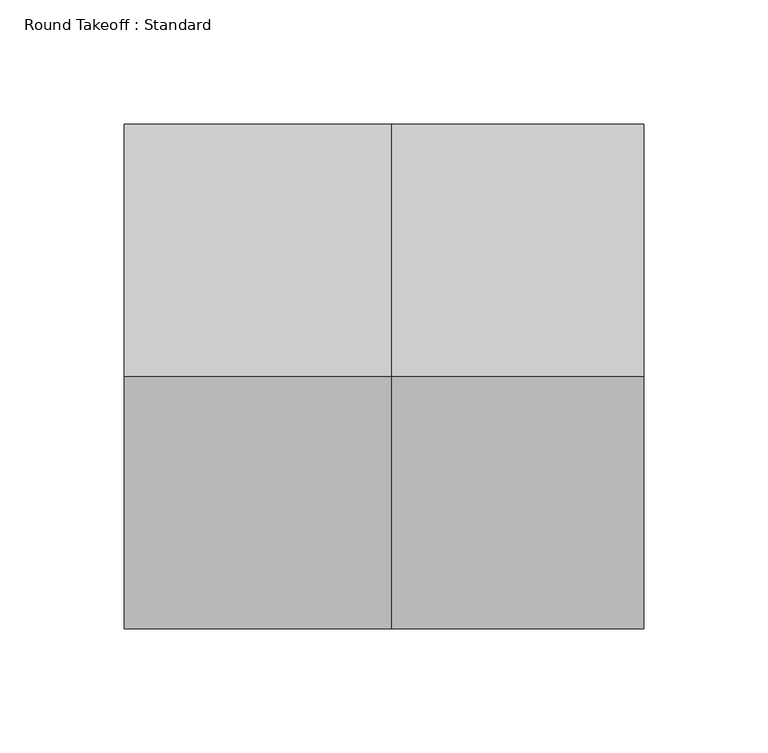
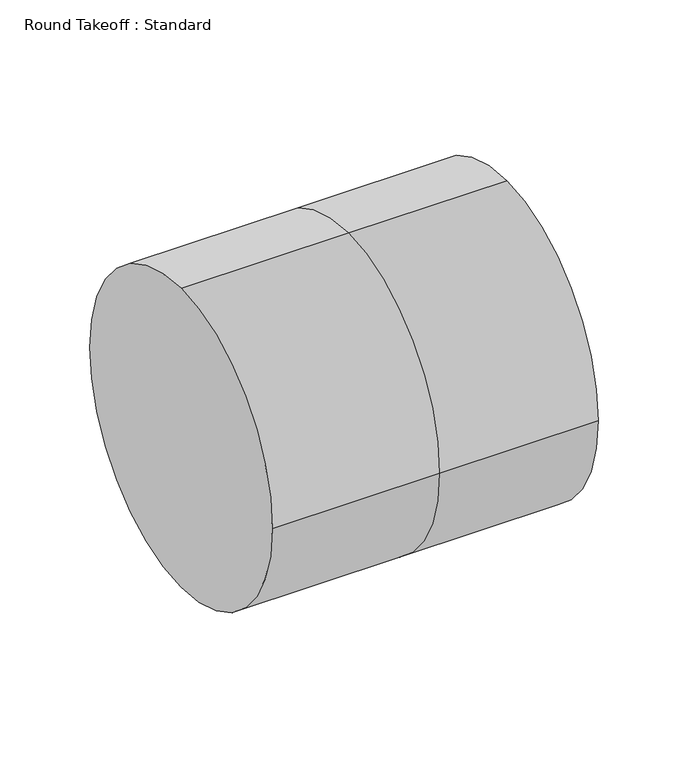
"""IFC4 building model written with IfcOpenShell, lengths in millimetres: duct fitting geometry, Round Takeoff : Standard."""

from ifc_helpers import new_model, si_unit, frame, origin, place, context, project, spatial, circle_curve, source, transform, mapped, element, save
from ifc_brep_helpers import plane_surface, cylinder_surface, advanced_brep


def round_takeoff_standard_53c2403a(model_context):
    return source(origin(), model_context, "Body", "AdvancedBrep", [
        advanced_brep(
        [(101.6, 0.0, 101.6), (101.6, -101.6, 0.0), (101.6, 0.0, -101.6), (101.6, 101.6, 0.0), (0.0, 101.6, 0.0), (0.0, 0.0, 101.6), (0.0, 0.0, -101.6), (0.0, -101.6, 0.0), (-107.696, 0.0, 101.6), (-107.696, 101.6, 0.0), (-107.696, 0.0, -101.6), (-107.696, -101.6, 0.0)],
        [
            (0, 1, circle_curve(frame((101.6, 0.0, 0.0), z_axis=(1.0, 0.0, 0.0), x_axis=(0.0, 1.0, 0.0)), 101.6)),
            (1, 2, circle_curve(frame((101.6, 0.0, 0.0), z_axis=(1.0, 0.0, 0.0), x_axis=(0.0, 1.0, 0.0)), 101.6)),
            (2, 3, circle_curve(frame((101.6, 0.0, 0.0), z_axis=(1.0, 0.0, 0.0), x_axis=(0.0, 1.0, 0.0)), 101.6)),
            (3, 0, circle_curve(frame((101.6, 0.0, 0.0), z_axis=(1.0, 0.0, 0.0), x_axis=(0.0, 1.0, 0.0)), 101.6)),
            (3, 4),
            (4, 5, circle_curve(frame((0.0, 0.0, 0.0), z_axis=(1.0, 0.0, 0.0), x_axis=(0.0, 1.0, 0.0)), 101.6)),
            (5, 0),
            (2, 6),
            (6, 4, circle_curve(frame((0.0, 0.0, 0.0), z_axis=(1.0, 0.0, 0.0), x_axis=(0.0, 1.0, 0.0)), 101.6)),
            (1, 7),
            (7, 6, circle_curve(frame((0.0, 0.0, 0.0), z_axis=(1.0, 0.0, 0.0), x_axis=(0.0, 1.0, 0.0)), 101.6)),
            (5, 7, circle_curve(frame((0.0, 0.0, 0.0), z_axis=(1.0, 0.0, 0.0), x_axis=(0.0, 1.0, 0.0)), 101.6)),
            (8, 9, circle_curve(frame((-107.696, 0.0, 0.0), z_axis=(-1.0, 0.0, 0.0), x_axis=(0.0, 1.0, 0.0)), 101.6)),
            (9, 10, circle_curve(frame((-107.696, 0.0, 0.0), z_axis=(-1.0, 0.0, 0.0), x_axis=(0.0, 1.0, 0.0)), 101.6)),
            (10, 11, circle_curve(frame((-107.696, 0.0, 0.0), z_axis=(-1.0, 0.0, 0.0), x_axis=(0.0, 1.0, 0.0)), 101.6)),
            (11, 8, circle_curve(frame((-107.696, 0.0, 0.0), z_axis=(-1.0, 0.0, 0.0), x_axis=(0.0, 1.0, 0.0)), 101.6)),
            (8, 5),
            (4, 9),
            (6, 10),
            (7, 11),
        ],
        [
            plane_surface(frame((101.6, 0.0, 0.0), z_axis=(1.0, 0.0, 0.0), x_axis=(0.0, 0.0, 1.0))),
            cylinder_surface(frame((0.0, 0.0, 0.0), z_axis=(-1.0, 0.0, 0.0), x_axis=(0.0, 1.0, 0.0)), 101.6),
            plane_surface(frame((-107.696, 0.0, 0.0), z_axis=(-1.0, 0.0, 0.0), x_axis=(0.0, 0.0, 1.0))),
            cylinder_surface(frame((-107.696, 0.0, 0.0), z_axis=(-1.0, 0.0, 0.0), x_axis=(0.0, 1.0, 0.0)), 101.6),
        ],
        [
            (0, [[1, 2, 3, 4]]),
            (1, [[-4, 5, 6, 7]]),
            (1, [[-3, 8, 9, -5]]),
            (1, [[-2, 10, 11, -8]]),
            (1, [[-1, -7, 12, -10]]),
            (2, [[13, 14, 15, 16]]),
            (3, [[-13, 17, -6, 18]]),
            (3, [[-14, -18, -9, 19]]),
            (3, [[-15, -19, -11, 20]]),
            (3, [[-16, -20, -12, -17]]),
        ],
    ),
    ])


if __name__ == "__main__":
    model = new_model("IFC4")
    model_context = context("Model", 3, world=origin())
    ifc_project = project(units=[si_unit("LENGTHUNIT", "METRE", prefix="MILLI")], contexts=[model_context])
    site = spatial("IfcSite", under=ifc_project)
    building = spatial("IfcBuilding", under=site)
    placement = place(None, origin())
    round_takeoff_standard_shape = round_takeoff_standard_53c2403a(model_context)
    element("IfcDuctFitting", 1, ObjectType="Round Takeoff : Standard", at=placement, inside=building, context=model_context, shape_type="MappedRepresentation", body=[
        mapped(round_takeoff_standard_shape, transform((0.0, 0.0, 0.0), x_axis=(1.0, 0.0, 0.0), y_axis=(0.0, 1.0, 0.0), z_axis=(0.0, 0.0, 1.0))),
    ])
    save(model, "model.ifc")
